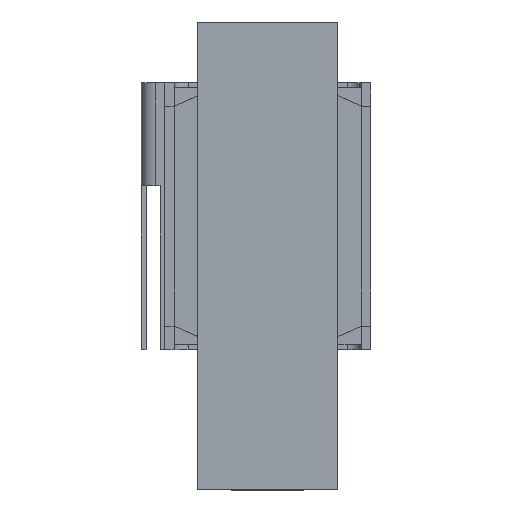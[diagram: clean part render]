
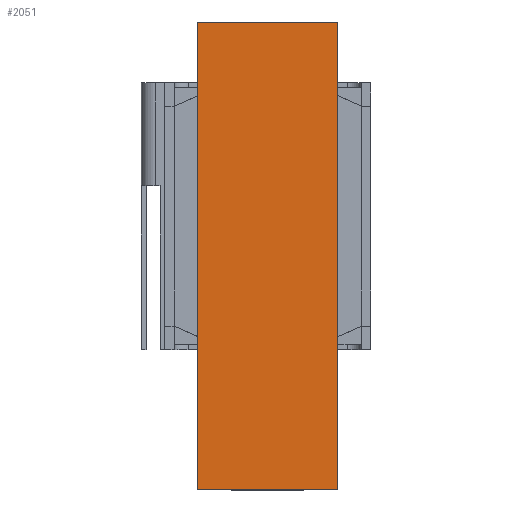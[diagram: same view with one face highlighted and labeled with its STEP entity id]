
A CAD part, front view. The second image highlights one B-rep face of the part: STEP entity #2051.
In plain terms, the highlighted planar face has unit normal (0, -1, 0).
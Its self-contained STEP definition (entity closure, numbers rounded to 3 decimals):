
#1974 = ORIENTED_EDGE ( 'NONE', *, *, #2044, .F. ) ;
#1975 = EDGE_CURVE ( 'NONE', #1988, #2045, #4645, .T. ) ;
#1977 = ORIENTED_EDGE ( 'NONE', *, *, #1975, .F. ) ;
#1978 = EDGE_CURVE ( 'NONE', #1988, #1990, #4595, .T. ) ;
#1988 = VERTEX_POINT ( 'NONE', #4627 ) ;
#1990 = VERTEX_POINT ( 'NONE', #4638 ) ;
#2030 = ORIENTED_EDGE ( 'NONE', *, *, #1978, .T. ) ;
#2044 = EDGE_CURVE ( 'NONE', #2045, #2047, #4744, .T. ) ;
#2045 = VERTEX_POINT ( 'NONE', #4804 ) ;
#2046 = EDGE_CURVE ( 'NONE', #1990, #2047, #4801, .T. ) ;
#2047 = VERTEX_POINT ( 'NONE', #4799 ) ;
#2050 = EDGE_LOOP ( 'NONE', ( #2054, #1974, #1977, #2030 ) ) ;
#2051 = ADVANCED_FACE ( 'NONE', ( #4745 ), #4746, .F. ) ;
#2054 = ORIENTED_EDGE ( 'NONE', *, *, #2046, .T. ) ;
#4594 = CARTESIAN_POINT ( 'NONE',  ( 0., 0., 100. ) ) ;
#4595 = LINE ( 'NONE', #4594, #4636 ) ;
#4627 = CARTESIAN_POINT ( 'NONE',  ( 0., 0., 100. ) ) ;
#4635 = DIRECTION ( 'NONE',  ( 0., 0., -1. ) ) ;
#4636 = VECTOR ( 'NONE', #4635, 1000. ) ;
#4638 = CARTESIAN_POINT ( 'NONE',  ( 0., 0., 0. ) ) ;
#4642 = DIRECTION ( 'NONE',  ( 1., 0., 0. ) ) ;
#4643 = VECTOR ( 'NONE', #4642, 1000. ) ;
#4644 = CARTESIAN_POINT ( 'NONE',  ( 15., 0., 100. ) ) ;
#4645 = LINE ( 'NONE', #4644, #4643 ) ;
#4743 = CARTESIAN_POINT ( 'NONE',  ( 30., 0., 100. ) ) ;
#4744 = LINE ( 'NONE', #4743, #4803 ) ;
#4745 = FACE_OUTER_BOUND ( 'NONE', #2050, .T. ) ;
#4746 = PLANE ( 'NONE',  #4794 ) ;
#4791 = DIRECTION ( 'NONE',  ( 0., 0., 1. ) ) ;
#4792 = DIRECTION ( 'NONE',  ( 0., 1., 0. ) ) ;
#4793 = CARTESIAN_POINT ( 'NONE',  ( 15., 0., 100. ) ) ;
#4794 = AXIS2_PLACEMENT_3D ( 'NONE', #4793, #4792, #4791 ) ;
#4796 = DIRECTION ( 'NONE',  ( 1., 0., 0. ) ) ;
#4797 = VECTOR ( 'NONE', #4796, 1000. ) ;
#4799 = CARTESIAN_POINT ( 'NONE',  ( 30., 0., 0. ) ) ;
#4800 = CARTESIAN_POINT ( 'NONE',  ( 15., 0., 0. ) ) ;
#4801 = LINE ( 'NONE', #4800, #4797 ) ;
#4802 = DIRECTION ( 'NONE',  ( 0., 0., -1. ) ) ;
#4803 = VECTOR ( 'NONE', #4802, 1000. ) ;
#4804 = CARTESIAN_POINT ( 'NONE',  ( 30., 0., 100. ) ) ;
